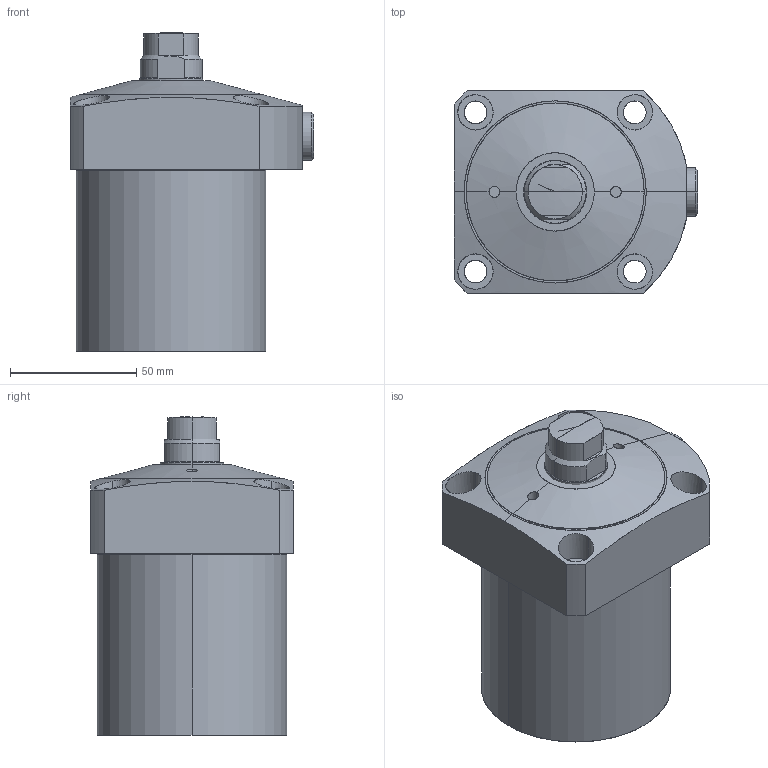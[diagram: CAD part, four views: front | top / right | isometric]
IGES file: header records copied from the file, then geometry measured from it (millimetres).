
Start section: SolidWorks IGES file using analytic representation for surfaces
Global section: file name: F:\clasys\75\LC0752-C.IGS; native system: SolidWorks 2010; preprocessor: SolidWorks 2010; author: nijil; date: 130720.235742; units: millimetre
Bounding box: 96.5 x 80 x 126 mm (x, y, z)
Surface area: 46196.3 mm2 (no closed solid volume)
Topology: 0 solids, 0 shells, 83 faces, 1663 edges, 1661 vertices
Faces by surface type: revolution 50, bspline 33
